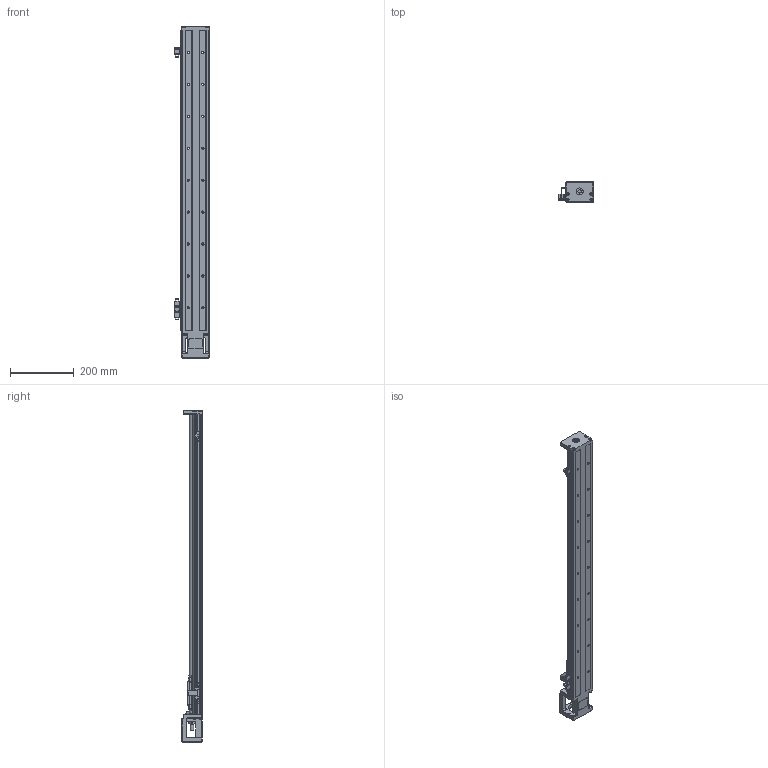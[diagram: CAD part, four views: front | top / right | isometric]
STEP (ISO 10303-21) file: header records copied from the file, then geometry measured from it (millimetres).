
FILE_DESCRIPTION (( 'STEP AP214' ), '1' );
FILE_NAME ('SFKK86-940A1-F0.STEP', '2022-05-05T11:52:26', ( '微软用户' ), ( '微软中国' ), 'SwSTEP 2.0', 'SolidWorks 2018', '' );
FILE_SCHEMA (( 'AUTOMOTIVE_DESIGN' ));
Length unit declared in the file: millimetre
Products named in the file (8): SX674嫖萇羲壽; SFKK86-A1; SFKK86-F0_KKR86-ZT-P-940; 极限轨道与开关固定座组合_940; 开关固定座：KK-674S2-F; SFKK86-LR 憤癹寢耋_940; SFKK86-940A1-F0; 不带盖挡光片：KK-86-S2-D2
Assembly tree (10 placements, depth 3):
  SFKK86-940A1-F0
    SFKK86-F0_KKR86-ZT-P-940
    SFKK86-A1
    极限轨道与开关固定座组合_940
      SFKK86-LR 憤癹寢耋_940
      开关固定座：KK-674S2-F  x2
    不带盖挡光片：KK-86-S2-D2
    SX674嫖萇羲壽  x3
Bounding box: 108.25 x 64 x 1040 mm (x, y, z)
Volume: 1849084.4 mm3; surface area: 463615.3 mm2
Topology: 26 solids, 26 shells, 1562 faces, 4041 edges, 2524 vertices
Faces by surface type: plane 734, cylinder 574, cone 174, torus 47, sphere 23, bspline 10
Entity records: 55765 total; most frequent: CARTESIAN_POINT 14258, DIRECTION 7578, ORIENTED_EDGE 7316, EDGE_CURVE 3658, AXIS2_PLACEMENT_3D 2683, VERTEX_POINT 2330, LINE 2212, VECTOR 2212
